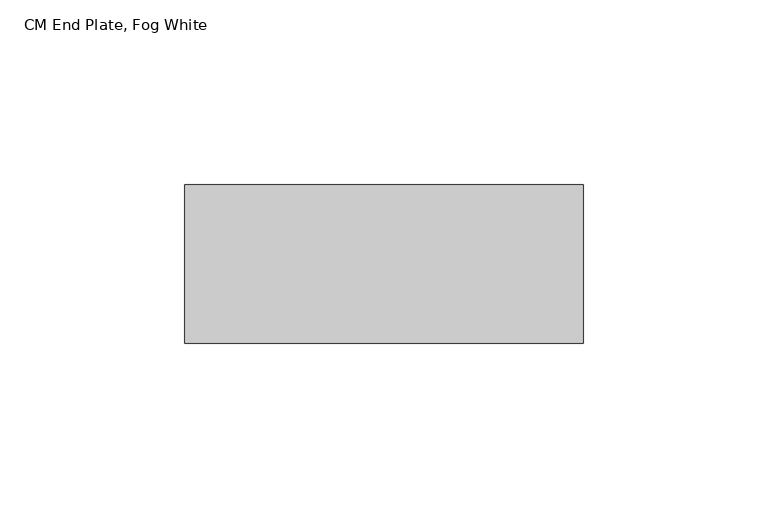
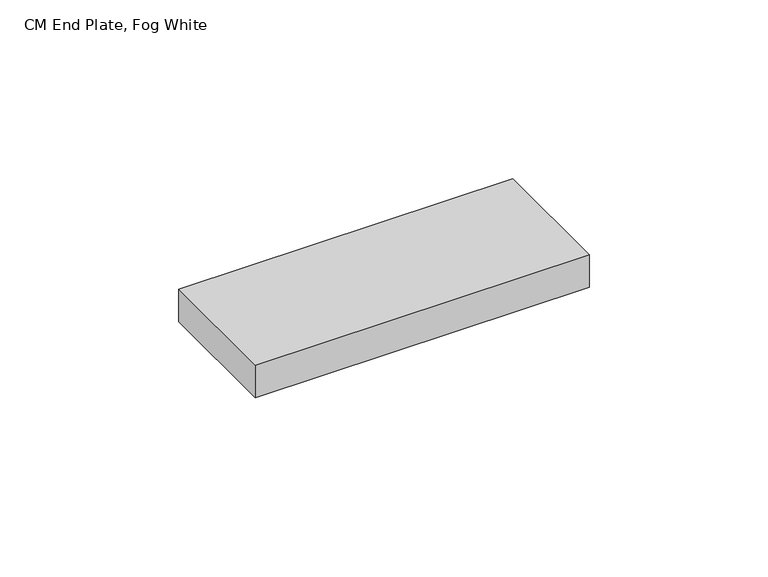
"""IFC4 building model written with IfcOpenShell, lengths in millimetres: proxy geometry, Face_Plate-4000_Series-Wiremold : CM End Plate, Fog White."""

from ifc_helpers import new_model, si_unit, origin, origin_with_axes, place, context, project, spatial, polyline, outline, extrude, source, transform, mapped, element, save


def cm_end_plate_fog_white_c181d395(model_context):
    return source(origin(), model_context, "Body", "SweptSolid", [
        extrude(outline(polyline([(53.975, 21.4376), (53.975, -21.4376), (-53.975, -21.4376), (-53.975, 21.4376), (53.975, 21.4376)])), origin_with_axes(), (0.0, 0.0, 1.0), 11.1252),
    ])


if __name__ == "__main__":
    model = new_model("IFC4")
    model_context = context("Model", 3, world=origin())
    ifc_project = project(units=[si_unit("LENGTHUNIT", "METRE", prefix="MILLI")], contexts=[model_context])
    site = spatial("IfcSite", under=ifc_project)
    building = spatial("IfcBuilding", under=site)
    placement = place(None, origin())
    cm_end_plate_fog_white_shape = cm_end_plate_fog_white_c181d395(model_context)
    element("IfcBuildingElementProxy", 1, Name="Face_Plate-4000_Series-Wiremold : CM End Plate, Fog White", ObjectType="Face_Plate-4000_Series-Wiremold : CM End Plate, Fog White", at=placement, inside=building, context=model_context, shape_type="MappedRepresentation", body=[
        mapped(cm_end_plate_fog_white_shape, transform((0.0, 0.0, 0.0), x_axis=(1.0, 0.0, 0.0), y_axis=(0.0, 1.0, 0.0), z_axis=(0.0, 0.0, 1.0))),
    ])
    save(model, "model.ifc")
